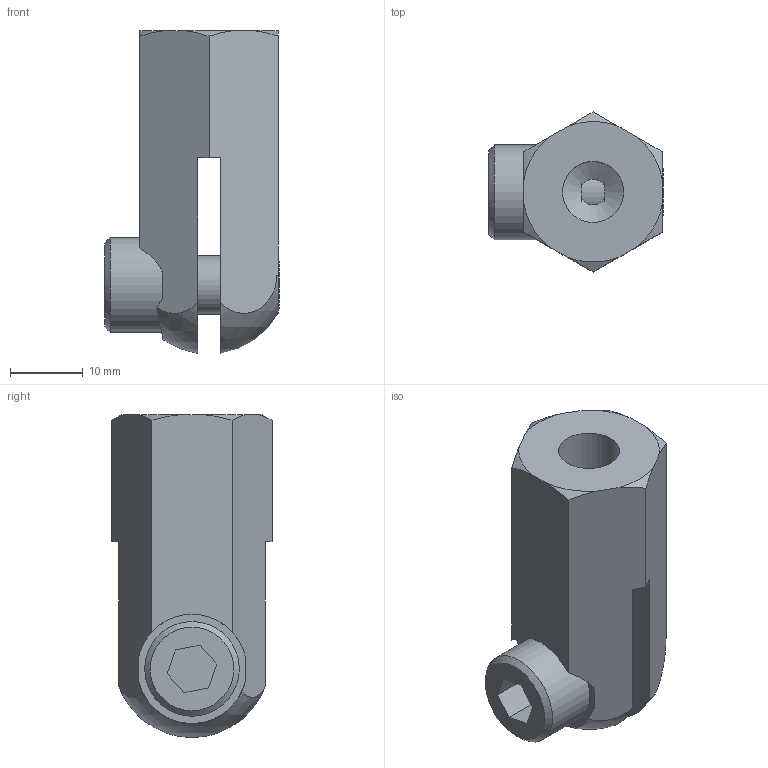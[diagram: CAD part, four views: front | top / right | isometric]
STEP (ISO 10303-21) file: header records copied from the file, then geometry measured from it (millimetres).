
FILE_DESCRIPTION(/* description */ (''),/* implementation_level */ '2;1');
FILE_NAME(/* name */ 'C:\Users\owner\Desktop\PL-ADAPTERS_3D_stp\PL-BKADPT.stp',/* time_stamp */ '2017-10-04T09:17:27-04:00',/* author */ ('owner'),/* organization */ (''),/* preprocessor_version */ 'ST-DEVELOPER v16.5',/* originating_system */ 'Autodesk Inventor 2017',/* authorisation */ '');
FILE_SCHEMA (('CONFIG_CONTROL_DESIGN'));
Length unit declared in the file: inch
Products named in the file (3): PL-BKADPT; 60027; 60040
Assembly tree (2 placements, depth 2):
  PL-BKADPT
    60027
    60040
Bounding box: 24 x 22 x 44.33 mm (x, y, z)
Volume: 11068.7 mm3; surface area: 5664.3 mm2
Topology: 2 solids, 2 shells, 43 faces, 111 edges, 73 vertices
Faces by surface type: plane 24, cone 9, cylinder 8, sphere 2
Full cylindrical faces by diameter (mm): 6.655 x1, 8 x1, 8.382 x1, 10.008 x1, 13 x1
Entity records: 1370 total; most frequent: CARTESIAN_POINT 264, DIRECTION 220, ORIENTED_EDGE 204, EDGE_CURVE 102, AXIS2_PLACEMENT_3D 86, VERTEX_POINT 72, EDGE_LOOP 58, LINE 48
